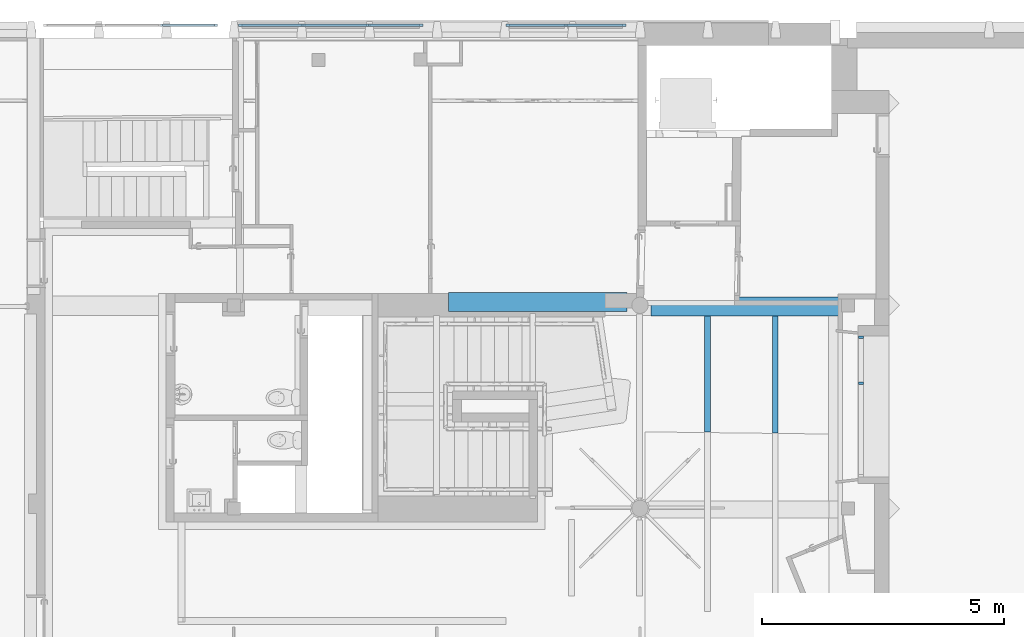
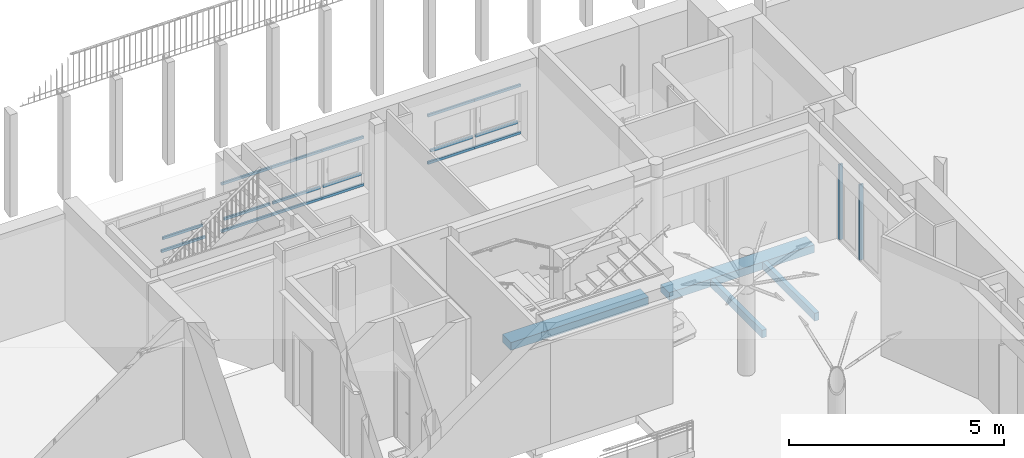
# One storey, part 9 of 65: 19 members, 4 beams, 4 elements without a shape of their own.
"""IFC4 building model written with IfcOpenShell, lengths in metres."""

from ifc_helpers import new_model, entity, si_unit, converted_unit, derived_unit, direction, frame, origin, place, context, subcontext, project, spatial, indexed_curve, outline, extrude, source, transform, mapped, material, type_object, type_shapes, element, aggregate, save


model = new_model("IFC4")

# Units and contexts
model_context = context("Model", 3, precision=1e-05, world=origin(), true_north=direction((6.12303176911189e-17, 1.0)))
body_context = subcontext(model_context, "Body", "Model", "MODEL_VIEW")
ifc_project = project(units=[si_unit("LENGTHUNIT", "METRE"), si_unit("AREAUNIT", "SQUARE_METRE"), si_unit("VOLUMEUNIT", "CUBIC_METRE"), converted_unit("PLANEANGLEUNIT", "DEGREE", entity("IfcRatioMeasure", 0.0174532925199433), si_unit("PLANEANGLEUNIT", "RADIAN"), dimensions=[0, 0, 0, 0, 0, 0, 0]), si_unit("MASSUNIT", "GRAM", prefix="KILO"), derived_unit("MASSDENSITYUNIT", [(si_unit("MASSUNIT", "GRAM", prefix="KILO"), 1), (si_unit("LENGTHUNIT", "METRE"), -3)]), derived_unit("MOMENTOFINERTIAUNIT", [(si_unit("LENGTHUNIT", "METRE"), 4)]), si_unit("TIMEUNIT", "SECOND"), si_unit("FREQUENCYUNIT", "HERTZ"), si_unit("THERMODYNAMICTEMPERATUREUNIT", "DEGREE_CELSIUS"), derived_unit("THERMALTRANSMITTANCEUNIT", [(si_unit("MASSUNIT", "GRAM", prefix="KILO"), 1), (si_unit("THERMODYNAMICTEMPERATUREUNIT", "KELVIN"), -1), (si_unit("TIMEUNIT", "SECOND"), -3)]), derived_unit("VOLUMETRICFLOWRATEUNIT", [(si_unit("LENGTHUNIT", "METRE"), 3), (si_unit("TIMEUNIT", "SECOND"), -1)]), si_unit("ELECTRICCURRENTUNIT", "AMPERE"), si_unit("ELECTRICVOLTAGEUNIT", "VOLT"), si_unit("POWERUNIT", "WATT"), si_unit("FORCEUNIT", "NEWTON", prefix="KILO"), si_unit("ILLUMINANCEUNIT", "LUX"), si_unit("LUMINOUSFLUXUNIT", "LUMEN"), si_unit("LUMINOUSINTENSITYUNIT", "CANDELA"), derived_unit("USERDEFINED", [(si_unit("MASSUNIT", "GRAM", prefix="KILO"), -1), (si_unit("LENGTHUNIT", "METRE"), -2), (si_unit("TIMEUNIT", "SECOND"), 3), (si_unit("LUMINOUSFLUXUNIT", "LUMEN"), 1)]), derived_unit("LINEARVELOCITYUNIT", [(si_unit("LENGTHUNIT", "METRE"), 1), (si_unit("TIMEUNIT", "SECOND"), -1)]), si_unit("PRESSUREUNIT", "PASCAL"), derived_unit("USERDEFINED", [(si_unit("LENGTHUNIT", "METRE"), -2), (si_unit("MASSUNIT", "GRAM", prefix="KILO"), 1), (si_unit("TIMEUNIT", "SECOND"), -2)]), derived_unit("LINEARFORCEUNIT", [(si_unit("MASSUNIT", "GRAM", prefix="KILO"), 1), (si_unit("LENGTHUNIT", "METRE"), 1), (si_unit("TIMEUNIT", "SECOND"), -2), (si_unit("LENGTHUNIT", "METRE"), -1)]), derived_unit("PLANARFORCEUNIT", [(si_unit("MASSUNIT", "GRAM", prefix="KILO"), 1), (si_unit("LENGTHUNIT", "METRE"), 1), (si_unit("TIMEUNIT", "SECOND"), -2), (si_unit("LENGTHUNIT", "METRE"), -2)])], contexts=[model_context])

# Site, building, storey
site_placement = place(None, origin())
site = spatial("IfcSite", under=ifc_project, at=site_placement, Name="Default", CompositionType="ELEMENT")
building_placement = place(site_placement, origin())
building = spatial("IfcBuilding", under=site, at=building_placement, Name="HOTEL CONSULAIRE BOULOGNE SUR MER", CompositionType="ELEMENT")
storey_placement = place(building_placement, origin())
storey = spatial("IfcBuildingStorey", under=building, at=storey_placement, Name="Niveau 0", CompositionType="ELEMENT", Elevation=1.31981936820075e-13)

# Curtain wall, members
curtain_wall_type = type_object("IfcCurtainWallType", Name="Mur-rideau:Simple panneau", PredefinedType="NOTDEFINED")
curtain_wall_1_placement = place(storey_placement, origin())
curtain_wall_1 = element("IfcCurtainWall", 1, at=curtain_wall_1_placement, inside=storey, type_object=curtain_wall_type, Name="Mur-rideau:Simple panneau", ObjectType="Mur-rideau:Simple panneau", PredefinedType="NOTDEFINED")
ifc_material_1 = material(Name="PVC, souple", Category="Plastique")
member_type_1 = type_object("IfcMemberType", Name="Meneau rectangulaire:100 x 25mm", PredefinedType="MULLION", material=ifc_material_1)
shared_shape_1 = source(origin(), body_context, "Body", "SweptSolid", [
    extrude(outline(indexed_curve([(-0.05, -0.025), (0.05, -0.025), (0.05, 0.025), (-0.05, 0.025), (-0.05, -0.025)], self_intersect=False)), frame((-0.025, 0.0, -2.13791504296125), z_axis=(0.0, 0.0, 1.0), x_axis=(0.0, -1.0, 0.0)), (0.0, 0.0, 1.0), 2.13791504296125),
])
type_shapes(member_type_1, [shared_shape_1])
member_1_placement = place(storey_placement, frame((11.7425810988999, -16.2544896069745, 2.1379150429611), z_axis=(0.0, 0.0, 1.0), x_axis=(0.0, 1.0, 0.0)))
member_1 = element("IfcMember", 2, at=member_1_placement, type_object=member_type_1, material=ifc_material_1, Name="Meneau rectangulaire:100 x 25mm", ObjectType="Meneau rectangulaire:100 x 25mm", PredefinedType="MULLION", context=body_context, shape_type="MappedRepresentation", body=[
    mapped(shared_shape_1, transform((0.0, 0.0, 0.0), scale=1.0)),
])
member_type_2 = type_object("IfcMemberType", Name="Meneau rectangulaire:100 x 25mm", PredefinedType="MULLION", material=ifc_material_1)
shared_shape_2 = source(origin(), body_context, "Body", "SweptSolid", [
    extrude(outline(indexed_curve([(-0.05, -0.025), (0.05, -0.025), (0.05, 0.025), (-0.05, 0.025), (-0.05, -0.025)], self_intersect=False)), frame((0.0, 0.0, -2.13791504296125), z_axis=(0.0, 0.0, 1.0), x_axis=(0.0, -1.0, 0.0)), (0.0, 0.0, 1.0), 2.13791504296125),
])
type_shapes(member_type_2, [shared_shape_2])
member_2_placement = place(storey_placement, frame((11.7425810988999, -17.2254433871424, 0.0), z_axis=(0.0, 0.0, -1.0), x_axis=(0.0, -1.0, 0.0)))
member_2 = element("IfcMember", 3, at=member_2_placement, type_object=member_type_2, material=ifc_material_1, Name="Meneau rectangulaire:100 x 25mm", ObjectType="Meneau rectangulaire:100 x 25mm", PredefinedType="MULLION", context=body_context, shape_type="MappedRepresentation", body=[
    mapped(shared_shape_2, transform((0.0, 0.0, 0.0), scale=1.0)),
])
aggregate(curtain_wall_1, [member_1, member_2])

curtain_wall_2_placement = place(storey_placement, origin())
curtain_wall_2 = element("IfcCurtainWall", 4, at=curtain_wall_2_placement, inside=storey, type_object=curtain_wall_type, Name="Mur-rideau:Simple panneau", ObjectType="Mur-rideau:Simple panneau", PredefinedType="NOTDEFINED")
ifc_material_2 = material(Name="PVC - Blanc", Category="Plastique")
member_type_3 = type_object("IfcMemberType", Name="Meneau rectangulaire:50 x 35", PredefinedType="MULLION", material=ifc_material_2)
shared_shape_3 = source(origin(), body_context, "Body", "SweptSolid", [
    extrude(outline(indexed_curve([(-0.025, -0.035), (0.025, -0.035), (0.025, 0.035), (-0.025, 0.035), (-0.025, -0.035)], self_intersect=False)), frame((0.0, -0.025, -1.07632801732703), z_axis=(0.0, 0.0, 1.0), x_axis=(0.0, -1.0, 0.0)), (0.0, 0.0, 1.0), 1.07632801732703),
])
type_shapes(member_type_3, [shared_shape_3])
member_3_placement = place(storey_placement, frame((-1.63182130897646, -9.84832416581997, 1.16973394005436), z_axis=(1.0, 0.0, 0.0), x_axis=(0.0, 0.0, 1.0)))
member_3 = element("IfcMember", 5, at=member_3_placement, type_object=member_type_3, material=ifc_material_2, Name="Meneau rectangulaire:50 x 35", ObjectType="Meneau rectangulaire:50 x 35", PredefinedType="MULLION", context=body_context, shape_type="MappedRepresentation", body=[
    mapped(shared_shape_3, transform((0.0, 0.0, 0.0), scale=1.0)),
])
member_type_4 = type_object("IfcMemberType", Name="Meneau rectangulaire:50 x 35", PredefinedType="MULLION", material=ifc_material_2)
shared_shape_4 = source(origin(), body_context, "Body", "SweptSolid", [
    extrude(outline(indexed_curve([(-0.025, -0.035), (0.025, -0.035), (0.025, 0.035), (-0.025, 0.035), (-0.025, -0.035)], self_intersect=False)), frame((-0.035, -0.025, -1.18132801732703), z_axis=(0.0, 0.0, 1.0), x_axis=(0.0, -1.0, 0.0)), (0.0, 0.0, 1.0), 1.18132801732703),
])
type_shapes(member_type_4, [shared_shape_4])
member_4_placement = place(storey_placement, frame((-2.74314932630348, -9.84832416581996, 0.779733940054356), z_axis=(-1.0, 0.0, 0.0), x_axis=(0.0, 0.0, -1.0)))
member_4 = element("IfcMember", 6, at=member_4_placement, type_object=member_type_4, material=ifc_material_2, Name="Meneau rectangulaire:50 x 35", ObjectType="Meneau rectangulaire:50 x 35", PredefinedType="MULLION", context=body_context, shape_type="MappedRepresentation", body=[
    mapped(shared_shape_4, transform((0.0, 0.0, 0.0), scale=1.0)),
])
aggregate(curtain_wall_2, [member_3, member_4])

curtain_wall_3_placement = place(storey_placement, origin())
curtain_wall_3 = element("IfcCurtainWall", 7, at=curtain_wall_3_placement, inside=storey, type_object=curtain_wall_type, Name="Mur-rideau:Simple panneau", ObjectType="Mur-rideau:Simple panneau", PredefinedType="NOTDEFINED")
member_type_5 = type_object("IfcMemberType", Name="Meneau rectangulaire:50 x 35", PredefinedType="MULLION", material=ifc_material_2)
shared_shape_5 = source(origin(), body_context, "Body", "SweptSolid", [
    extrude(outline(indexed_curve([(-0.025, -0.035), (0.025, -0.035), (0.025, 0.035), (-0.025, 0.035), (-0.025, -0.035)], self_intersect=False)), frame((-0.035, -0.025, -1.128), z_axis=(0.0, 0.0, 1.0), x_axis=(0.0, -1.0, 0.0)), (0.0, 0.0, 1.0), 1.128),
])
type_shapes(member_type_5, [shared_shape_5])
member_5_placement = place(storey_placement, frame((2.6818649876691, -9.84674446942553, 2.19099999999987), z_axis=(1.0, 0.0, 0.0), x_axis=(0.0, 0.0, 1.0)))
member_5 = element("IfcMember", 8, at=member_5_placement, type_object=member_type_5, material=ifc_material_2, Name="Meneau rectangulaire:50 x 35", ObjectType="Meneau rectangulaire:50 x 35", PredefinedType="MULLION", context=body_context, shape_type="MappedRepresentation", body=[
    mapped(shared_shape_5, transform((0.0, 0.0, 0.0), scale=1.0)),
])
member_type_6 = type_object("IfcMemberType", Name="Meneau rectangulaire:50 x 35", PredefinedType="MULLION", material=ifc_material_2)
shared_shape_6 = source(origin(), body_context, "Body", "SweptSolid", [
    extrude(outline(indexed_curve([(-0.025, -0.035), (0.025, -0.035), (0.025, 0.035), (-0.025, 0.035), (-0.025, -0.035)], self_intersect=False)), frame((-0.035, -0.025, -1.33564424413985), z_axis=(0.0, 0.0, 1.0), x_axis=(0.0, -1.0, 0.0)), (0.0, 0.0, 1.0), 1.33564424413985),
])
type_shapes(member_type_6, [shared_shape_6])
member_6_placement = place(storey_placement, frame((-1.1294235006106, -9.84674446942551, 0.779733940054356), z_axis=(-1.0, 0.0, 0.0), x_axis=(0.0, 0.0, -1.0)))
member_6 = element("IfcMember", 9, at=member_6_placement, type_object=member_type_6, material=ifc_material_2, Name="Meneau rectangulaire:50 x 35", ObjectType="Meneau rectangulaire:50 x 35", PredefinedType="MULLION", context=body_context, shape_type="MappedRepresentation", body=[
    mapped(shared_shape_6, transform((0.0, 0.0, 0.0), scale=1.0)),
])
member_type_7 = type_object("IfcMemberType", Name="Meneau rectangulaire:50 x 35", PredefinedType="MULLION", material=ifc_material_2)
shared_shape_7 = source(origin(), body_context, "Body", "SweptSolid", [
    extrude(outline(indexed_curve([(-0.025, -0.035), (0.025, -0.035), (0.025, 0.035), (-0.025, 0.035), (-0.025, -0.035)], self_intersect=False)), frame((0.0, -0.025, -1.23064424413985), z_axis=(0.0, 0.0, 1.0), x_axis=(0.0, -1.0, 0.0)), (0.0, 0.0, 1.0), 1.23064424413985),
])
type_shapes(member_type_7, [shared_shape_7])
member_7_placement = place(storey_placement, frame((0.17122074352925, -9.84674446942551, 1.13773394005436), z_axis=(1.0, 0.0, 0.0), x_axis=(0.0, 0.0, 1.0)))
member_7 = element("IfcMember", 10, at=member_7_placement, type_object=member_type_7, material=ifc_material_2, Name="Meneau rectangulaire:50 x 35", ObjectType="Meneau rectangulaire:50 x 35", PredefinedType="MULLION", context=body_context, shape_type="MappedRepresentation", body=[
    mapped(shared_shape_7, transform((0.0, 0.0, 0.0), scale=1.0)),
])
member_type_8 = type_object("IfcMemberType", Name="Meneau rectangulaire:50 x 35", PredefinedType="MULLION", material=ifc_material_2)
shared_shape_8 = source(origin(), body_context, "Body", "SweptSolid", [
    extrude(outline(indexed_curve([(-0.025, -0.035), (0.025, -0.035), (0.025, 0.035), (-0.025, 0.035), (-0.025, -0.035)], self_intersect=False)), frame((0.0, -0.025, -1.023), z_axis=(0.0, 0.0, 1.0), x_axis=(0.0, -1.0, 0.0)), (0.0, 0.0, 1.0), 1.023),
])
type_shapes(member_type_8, [shared_shape_8])
member_8_placement = place(storey_placement, frame((2.6118649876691, -9.84674446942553, 1.13773394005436), z_axis=(1.0, 0.0, 0.0), x_axis=(0.0, 0.0, 1.0)))
member_8 = element("IfcMember", 11, at=member_8_placement, type_object=member_type_8, material=ifc_material_2, Name="Meneau rectangulaire:50 x 35", ObjectType="Meneau rectangulaire:50 x 35", PredefinedType="MULLION", context=body_context, shape_type="MappedRepresentation", body=[
    mapped(shared_shape_8, transform((0.0, 0.0, 0.0), scale=1.0)),
])
member_type_9 = type_object("IfcMemberType", Name="Meneau rectangulaire:50 x 35", PredefinedType="MULLION", material=ifc_material_2)
shared_shape_9 = source(origin(), body_context, "Body", "SweptSolid", [
    extrude(outline(indexed_curve([(-0.025, -0.035), (0.025, -0.035), (0.025, 0.035), (-0.025, 0.035), (-0.025, -0.035)], self_intersect=False)), frame((0.0, -0.025, -1.27764424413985), z_axis=(0.0, 0.0, 1.0), x_axis=(0.0, -1.0, 0.0)), (0.0, 0.0, 1.0), 1.27764424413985),
])
type_shapes(member_type_9, [shared_shape_9])
member_9_placement = place(storey_placement, frame((1.5188649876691, -9.84674446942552, 1.13773394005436), z_axis=(1.0, 0.0, 0.0), x_axis=(0.0, 0.0, 1.0)))
member_9 = element("IfcMember", 12, at=member_9_placement, type_object=member_type_9, material=ifc_material_2, Name="Meneau rectangulaire:50 x 35", ObjectType="Meneau rectangulaire:50 x 35", PredefinedType="MULLION", context=body_context, shape_type="MappedRepresentation", body=[
    mapped(shared_shape_9, transform((0.0, 0.0, 0.0), scale=1.0)),
])
member_type_10 = type_object("IfcMemberType", Name="Meneau rectangulaire:50 x 35", PredefinedType="MULLION", material=ifc_material_2)
shared_shape_10 = source(origin(), body_context, "Body", "SweptSolid", [
    extrude(outline(indexed_curve([(-0.025, -0.035), (0.025, -0.035), (0.025, 0.035), (-0.025, 0.035), (-0.025, -0.035)], self_intersect=False)), frame((-0.035, -0.025, -1.128), z_axis=(0.0, 0.0, 1.0), x_axis=(0.0, -1.0, 0.0)), (0.0, 0.0, 1.0), 1.128),
])
type_shapes(member_type_10, [shared_shape_10])
member_10_placement = place(storey_placement, frame((1.5538649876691, -9.84674446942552, 0.779733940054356), z_axis=(-1.0, 0.0, 0.0), x_axis=(0.0, 0.0, -1.0)))
member_10 = element("IfcMember", 13, at=member_10_placement, type_object=member_type_10, material=ifc_material_2, Name="Meneau rectangulaire:50 x 35", ObjectType="Meneau rectangulaire:50 x 35", PredefinedType="MULLION", context=body_context, shape_type="MappedRepresentation", body=[
    mapped(shared_shape_10, transform((0.0, 0.0, 0.0), scale=1.0)),
])
member_type_11 = type_object("IfcMemberType", Name="Meneau rectangulaire:50 x 35", PredefinedType="MULLION", material=ifc_material_2)
shared_shape_11 = source(origin(), body_context, "Body", "SweptSolid", [
    extrude(outline(indexed_curve([(-0.025, -0.035), (0.025, -0.035), (0.025, 0.035), (-0.025, 0.035), (-0.025, -0.035)], self_intersect=False)), frame((-0.035, -0.025, -1.34764424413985), z_axis=(0.0, 0.0, 1.0), x_axis=(0.0, -1.0, 0.0)), (0.0, 0.0, 1.0), 1.34764424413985),
])
type_shapes(member_type_11, [shared_shape_11])
member_11_placement = place(storey_placement, frame((0.20622074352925, -9.84674446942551, 0.779733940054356), z_axis=(-1.0, 0.0, 0.0), x_axis=(0.0, 0.0, -1.0)))
member_11 = element("IfcMember", 14, at=member_11_placement, type_object=member_type_11, material=ifc_material_2, Name="Meneau rectangulaire:50 x 35", ObjectType="Meneau rectangulaire:50 x 35", PredefinedType="MULLION", context=body_context, shape_type="MappedRepresentation", body=[
    mapped(shared_shape_11, transform((0.0, 0.0, 0.0), scale=1.0)),
])
member_type_12 = type_object("IfcMemberType", Name="Meneau rectangulaire:50 x 35", PredefinedType="MULLION", material=ifc_material_2)
shared_shape_12 = source(origin(), body_context, "Body", "SweptSolid", [
    extrude(outline(indexed_curve([(-0.025, -0.035), (0.025, -0.035), (0.025, 0.035), (-0.025, 0.035), (-0.025, -0.035)], self_intersect=False)), frame((-0.035, -0.025, -1.34764424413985), z_axis=(0.0, 0.0, 1.0), x_axis=(0.0, -1.0, 0.0)), (0.0, 0.0, 1.0), 1.34764424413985),
])
type_shapes(member_type_12, [shared_shape_12])
member_12_placement = place(storey_placement, frame((1.5538649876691, -9.84674446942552, 2.19099999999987), z_axis=(1.0, 0.0, 0.0), x_axis=(0.0, 0.0, 1.0)))
member_12 = element("IfcMember", 15, at=member_12_placement, type_object=member_type_12, material=ifc_material_2, Name="Meneau rectangulaire:50 x 35", ObjectType="Meneau rectangulaire:50 x 35", PredefinedType="MULLION", context=body_context, shape_type="MappedRepresentation", body=[
    mapped(shared_shape_12, transform((0.0, 0.0, 0.0), scale=1.0)),
])
member_type_13 = type_object("IfcMemberType", Name="Meneau rectangulaire:50 x 35", PredefinedType="MULLION", material=ifc_material_2)
shared_shape_13 = source(origin(), body_context, "Body", "SweptSolid", [
    extrude(outline(indexed_curve([(-0.025, -0.035), (0.025, -0.035), (0.025, 0.035), (-0.025, 0.035), (-0.025, -0.035)], self_intersect=False)), frame((-0.035, -0.025, -1.33564424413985), z_axis=(0.0, 0.0, 1.0), x_axis=(0.0, -1.0, 0.0)), (0.0, 0.0, 1.0), 1.33564424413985),
])
type_shapes(member_type_13, [shared_shape_13])
member_13_placement = place(storey_placement, frame((0.20622074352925, -9.84674446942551, 2.19099999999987), z_axis=(1.0, 0.0, 0.0), x_axis=(0.0, 0.0, 1.0)))
member_13 = element("IfcMember", 16, at=member_13_placement, type_object=member_type_13, material=ifc_material_2, Name="Meneau rectangulaire:50 x 35", ObjectType="Meneau rectangulaire:50 x 35", PredefinedType="MULLION", context=body_context, shape_type="MappedRepresentation", body=[
    mapped(shared_shape_13, transform((0.0, 0.0, 0.0), scale=1.0)),
])
aggregate(curtain_wall_3, [member_5, member_6, member_7, member_8, member_9, member_10, member_11, member_12, member_13])

curtain_wall_4_placement = place(storey_placement, origin())
curtain_wall_4 = element("IfcCurtainWall", 17, at=curtain_wall_4_placement, inside=storey, type_object=curtain_wall_type, Name="Mur-rideau:Simple panneau", ObjectType="Mur-rideau:Simple panneau", PredefinedType="NOTDEFINED")
member_type_14 = type_object("IfcMemberType", Name="Meneau rectangulaire:50 x 35", PredefinedType="MULLION", material=ifc_material_2)
shared_shape_14 = source(origin(), body_context, "Body", "SweptSolid", [
    extrude(outline(indexed_curve([(-0.025, -0.035), (0.025, -0.035), (0.025, 0.035), (-0.025, 0.035), (-0.025, -0.035)], self_intersect=False)), frame((-0.035, -0.025, -1.2425), z_axis=(0.0, 0.0, 1.0), x_axis=(0.0, -1.0, 0.0)), (0.0, 0.0, 1.0), 1.2425),
])
type_shapes(member_type_14, [shared_shape_14])
member_14_placement = place(storey_placement, frame((6.8835764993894, -9.84674446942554, 2.19099999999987), z_axis=(1.0, 0.0, 0.0), x_axis=(0.0, 0.0, 1.0)))
member_14 = element("IfcMember", 18, at=member_14_placement, type_object=member_type_14, material=ifc_material_2, Name="Meneau rectangulaire:50 x 35", ObjectType="Meneau rectangulaire:50 x 35", PredefinedType="MULLION", context=body_context, shape_type="MappedRepresentation", body=[
    mapped(shared_shape_14, transform((0.0, 0.0, 0.0), scale=1.0)),
])
member_type_15 = type_object("IfcMemberType", Name="Meneau rectangulaire:50 x 35", PredefinedType="MULLION", material=ifc_material_2)
shared_shape_15 = source(origin(), body_context, "Body", "SweptSolid", [
    extrude(outline(indexed_curve([(-0.025, -0.035), (0.025, -0.035), (0.025, 0.035), (-0.025, 0.035), (-0.025, -0.035)], self_intersect=False)), frame((-0.035, -0.025, -1.2425), z_axis=(0.0, 0.0, 1.0), x_axis=(0.0, -1.0, 0.0)), (0.0, 0.0, 1.0), 1.2425),
])
type_shapes(member_type_15, [shared_shape_15])
member_15_placement = place(storey_placement, frame((4.3985764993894, -9.84674446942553, 0.779733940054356), z_axis=(-1.0, 0.0, 0.0), x_axis=(0.0, 0.0, -1.0)))
member_15 = element("IfcMember", 19, at=member_15_placement, type_object=member_type_15, material=ifc_material_2, Name="Meneau rectangulaire:50 x 35", ObjectType="Meneau rectangulaire:50 x 35", PredefinedType="MULLION", context=body_context, shape_type="MappedRepresentation", body=[
    mapped(shared_shape_15, transform((0.0, 0.0, 0.0), scale=1.0)),
])
member_type_16 = type_object("IfcMemberType", Name="Meneau rectangulaire:50 x 35", PredefinedType="MULLION", material=ifc_material_2)
shared_shape_16 = source(origin(), body_context, "Body", "SweptSolid", [
    extrude(outline(indexed_curve([(-0.025, -0.035), (0.025, -0.035), (0.025, 0.035), (-0.025, 0.035), (-0.025, -0.035)], self_intersect=False)), frame((0.0, -0.025, -1.1375), z_axis=(0.0, 0.0, 1.0), x_axis=(0.0, -1.0, 0.0)), (0.0, 0.0, 1.0), 1.1375),
])
type_shapes(member_type_16, [shared_shape_16])
member_16_placement = place(storey_placement, frame((5.6060764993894, -9.84674446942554, 1.13773394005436), z_axis=(1.0, 0.0, 0.0), x_axis=(0.0, 0.0, 1.0)))
member_16 = element("IfcMember", 20, at=member_16_placement, type_object=member_type_16, material=ifc_material_2, Name="Meneau rectangulaire:50 x 35", ObjectType="Meneau rectangulaire:50 x 35", PredefinedType="MULLION", context=body_context, shape_type="MappedRepresentation", body=[
    mapped(shared_shape_16, transform((0.0, 0.0, 0.0), scale=1.0)),
])
member_17_placement = place(storey_placement, frame((6.8135764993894, -9.84674446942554, 1.13773394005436), z_axis=(1.0, 0.0, 0.0), x_axis=(0.0, 0.0, 1.0)))
member_17 = element("IfcMember", 21, at=member_17_placement, type_object=member_type_16, material=ifc_material_2, Name="Meneau rectangulaire:50 x 35", ObjectType="Meneau rectangulaire:50 x 35", PredefinedType="MULLION", context=body_context, shape_type="MappedRepresentation", body=[
    mapped(shared_shape_16, transform((0.0, 0.0, 0.0), scale=1.0)),
])
member_type_17 = type_object("IfcMemberType", Name="Meneau rectangulaire:50 x 35", PredefinedType="MULLION", material=ifc_material_2)
shared_shape_17 = source(origin(), body_context, "Body", "SweptSolid", [
    extrude(outline(indexed_curve([(-0.025, -0.035), (0.025, -0.035), (0.025, 0.035), (-0.025, 0.035), (-0.025, -0.035)], self_intersect=False)), frame((-0.035, -0.025, -1.2425), z_axis=(0.0, 0.0, 1.0), x_axis=(0.0, -1.0, 0.0)), (0.0, 0.0, 1.0), 1.2425),
])
type_shapes(member_type_17, [shared_shape_17])
member_18_placement = place(storey_placement, frame((5.6410764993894, -9.84674446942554, 2.19099999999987), z_axis=(1.0, 0.0, 0.0), x_axis=(0.0, 0.0, 1.0)))
member_18 = element("IfcMember", 22, at=member_18_placement, type_object=member_type_17, material=ifc_material_2, Name="Meneau rectangulaire:50 x 35", ObjectType="Meneau rectangulaire:50 x 35", PredefinedType="MULLION", context=body_context, shape_type="MappedRepresentation", body=[
    mapped(shared_shape_17, transform((0.0, 0.0, 0.0), scale=1.0)),
])
member_type_18 = type_object("IfcMemberType", Name="Meneau rectangulaire:50 x 35", PredefinedType="MULLION", material=ifc_material_2)
shared_shape_18 = source(origin(), body_context, "Body", "SweptSolid", [
    extrude(outline(indexed_curve([(-0.025, -0.035), (0.025, -0.035), (0.025, 0.035), (-0.025, 0.035), (-0.025, -0.035)], self_intersect=False)), frame((-0.035, -0.025, -1.2425), z_axis=(0.0, 0.0, 1.0), x_axis=(0.0, -1.0, 0.0)), (0.0, 0.0, 1.0), 1.2425),
])
type_shapes(member_type_18, [shared_shape_18])
member_19_placement = place(storey_placement, frame((5.6410764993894, -9.84674446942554, 0.779733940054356), z_axis=(-1.0, 0.0, 0.0), x_axis=(0.0, 0.0, -1.0)))
member_19 = element("IfcMember", 23, at=member_19_placement, type_object=member_type_18, material=ifc_material_2, Name="Meneau rectangulaire:50 x 35", ObjectType="Meneau rectangulaire:50 x 35", PredefinedType="MULLION", context=body_context, shape_type="MappedRepresentation", body=[
    mapped(shared_shape_18, transform((0.0, 0.0, 0.0), scale=1.0)),
])
aggregate(curtain_wall_4, [member_14, member_15, member_16, member_18, member_19, member_17])

# Beams
ifc_material_3 = material(Name="Béton - Béton coulé sur place", Category="Béton")
beam_type_1 = type_object("IfcBeamType", Name="Poutre rectangulaire - Béton:400x220", PredefinedType="BEAM", material=ifc_material_3)
shared_shape_19 = source(origin(), body_context, "Body", "SweptSolid", [
    extrude(outline(indexed_curve([(-0.11000000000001, -0.199999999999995), (0.10999999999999, -0.199999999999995), (0.11000000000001, 0.200000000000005), (-0.10999999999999, 0.200000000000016), (-0.11000000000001, -0.199999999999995)], self_intersect=False)), frame((3.21132268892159, -15.5490975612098, -0.37999999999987), z_axis=(1.0, 0.0, 0.0), x_axis=(0.0, 0.0, -1.0)), (0.0, 0.0, 1.0), 3.69225226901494),
])
type_shapes(beam_type_1, [shared_shape_19])
beam_1_placement = place(storey_placement, origin())
element("IfcBeam", 24, at=beam_1_placement, inside=storey, type_object=beam_type_1, material=ifc_material_3, Name="Poutre rectangulaire - Béton:400x220", ObjectType="Poutre rectangulaire - Béton:400x220", PredefinedType="BEAM", context=body_context, shape_type="MappedRepresentation", body=[
    mapped(shared_shape_19, transform((0.0, 0.0, 0.0), scale=1.0)),
])
beam_type_2 = type_object("IfcBeamType", Name="Poutre rectangulaire - Béton:400x220", PredefinedType="BEAM", material=ifc_material_3)
shared_shape_20 = source(origin(), body_context, "Body", "SweptSolid", [
    extrude(outline(indexed_curve([(-0.11000000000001, -0.199999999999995), (0.10999999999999, -0.199999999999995), (0.11000000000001, 0.200000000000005), (-0.10999999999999, 0.200000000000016), (-0.11000000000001, -0.199999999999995)], self_intersect=False)), frame((7.40357495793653, -15.6403511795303, -0.37999999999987), z_axis=(1.0, 0.0, 0.0), x_axis=(0.0, 0.0, -1.0)), (0.0, 0.0, 1.0), 3.88962629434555),
])
type_shapes(beam_type_2, [shared_shape_20])
beam_2_placement = place(storey_placement, origin())
element("IfcBeam", 25, at=beam_2_placement, inside=storey, type_object=beam_type_2, material=ifc_material_3, Name="Poutre rectangulaire - Béton:400x220", ObjectType="Poutre rectangulaire - Béton:400x220", PredefinedType="BEAM", context=body_context, shape_type="MappedRepresentation", body=[
    mapped(shared_shape_20, transform((0.0, 0.0, 0.0), scale=1.0)),
])
beam_type_3 = type_object("IfcBeamType", Name="Poutre rectangulaire - Béton:120X220", PredefinedType="BEAM", material=ifc_material_3)
shared_shape_21 = source(origin(), body_context, "Body", "SweptSolid", [
    extrude(outline(indexed_curve([(-0.0600000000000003, -0.11), (0.0599999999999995, -0.11), (0.0599999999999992, 0.11), (-0.0600000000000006, 0.11), (-0.0600000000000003, -0.11)], self_intersect=False)), frame((8.56702168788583, -18.2363034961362, -0.37999999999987), z_axis=(0.0, 1.0, 0.0), x_axis=(-1.0, 0.0, 0.0)), (0.0, 0.0, 1.0), 2.39595231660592),
])
type_shapes(beam_type_3, [shared_shape_21])
beam_3_placement = place(storey_placement, origin())
element("IfcBeam", 26, at=beam_3_placement, inside=storey, type_object=beam_type_3, material=ifc_material_3, Name="Poutre rectangulaire - Béton:120X220", ObjectType="Poutre rectangulaire - Béton:120X220", PredefinedType="BEAM", context=body_context, shape_type="MappedRepresentation", body=[
    mapped(shared_shape_21, transform((0.0, 0.0, 0.0), scale=1.0)),
])
beam_type_4 = type_object("IfcBeamType", Name="Poutre rectangulaire - Béton:120X220", PredefinedType="BEAM", material=ifc_material_3)
shared_shape_22 = source(origin(), body_context, "Body", "SweptSolid", [
    extrude(outline(indexed_curve([(-0.0599999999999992, -0.11), (0.0600000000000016, -0.11), (0.0600000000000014, 0.11), (-0.0599999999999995, 0.11), (-0.0599999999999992, -0.11)], self_intersect=False)), frame((9.96802168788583, -18.2530418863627, -0.37999999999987), z_axis=(0.0, 1.0, 0.0), x_axis=(-1.0, 0.0, 0.0)), (0.0, 0.0, 1.0), 2.41269070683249),
])
type_shapes(beam_type_4, [shared_shape_22])
beam_4_placement = place(storey_placement, origin())
element("IfcBeam", 27, at=beam_4_placement, inside=storey, type_object=beam_type_4, material=ifc_material_3, Name="Poutre rectangulaire - Béton:120X220", ObjectType="Poutre rectangulaire - Béton:120X220", PredefinedType="BEAM", context=body_context, shape_type="MappedRepresentation", body=[
    mapped(shared_shape_22, transform((0.0, 0.0, 0.0), scale=1.0)),
])

save(model, "model.ifc")
